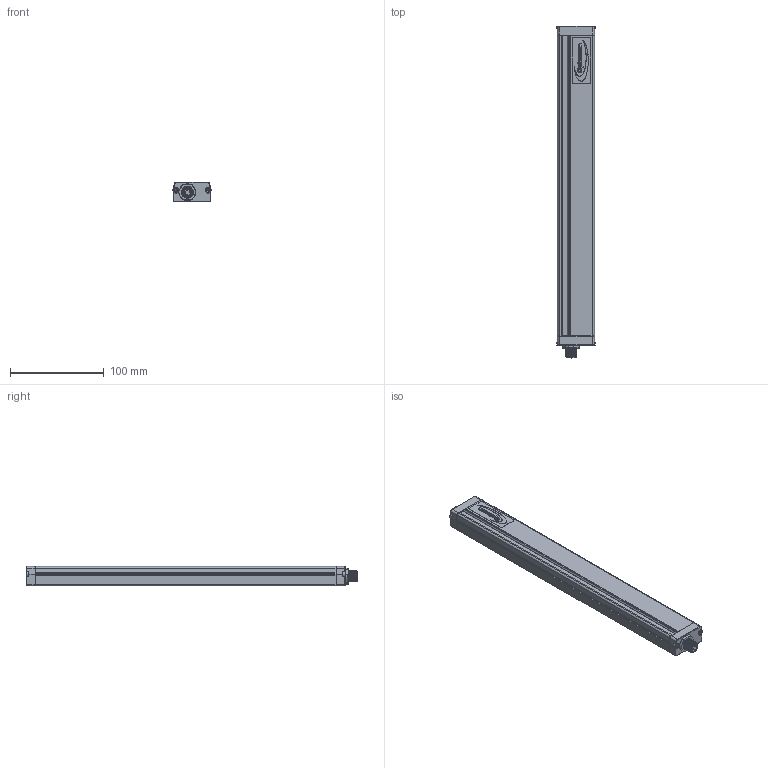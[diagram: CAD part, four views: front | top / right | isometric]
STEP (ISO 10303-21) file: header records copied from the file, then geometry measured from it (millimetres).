
FILE_DESCRIPTION(/* description */ (''),/* implementation_level */ '2;1');
FILE_NAME(/* name */ 'C:\Users\andre\SynologyDrive\Optoscan\Libreria Componenti\00 - Barriere\Barriera sorgente\Argo_320_TX.stp',/* time_stamp */ '2021-04-22T10:13:56+02:00',/* author */ ('andre'),/* organization */ (''),/* preprocessor_version */ 'ST-DEVELOPER v18',/* originating_system */ 'Autodesk Inventor 2020',/* authorisation */ '');
FILE_SCHEMA (('AUTOMOTIVE_DESIGN { 1 0 10303 214 3 1 1 }'));
Length unit declared in the file: millimetre
Products named in the file (1): Argo_320_TX
Bounding box: 40.5 x 353.3 x 20.75 mm (x, y, z)
Volume: 73808 mm3; surface area: 92030.1 mm2
Topology: 1 solids, 1 shells, 696 faces, 1911 edges, 1225 vertices
Faces by surface type: plane 321, cylinder 195, bspline 94, torus 72, cone 8, sphere 6
Full cylindrical faces by diameter (mm): 1 x4, 2.459 x4, 2.5 x4, 3 x4, 3.5 x4, 5.5 x4, 8 x1, 10.5 x2, 11.75 x9, 15.7 x1, 17.5 x1
Entity records: 30770 total; most frequent: CARTESIAN_POINT 12670, ORIENTED_EDGE 3806, DIRECTION 3415, EDGE_CURVE 1903, VERTEX_POINT 1225, AXIS2_PLACEMENT_3D 1193, LINE 1029, VECTOR 1029
